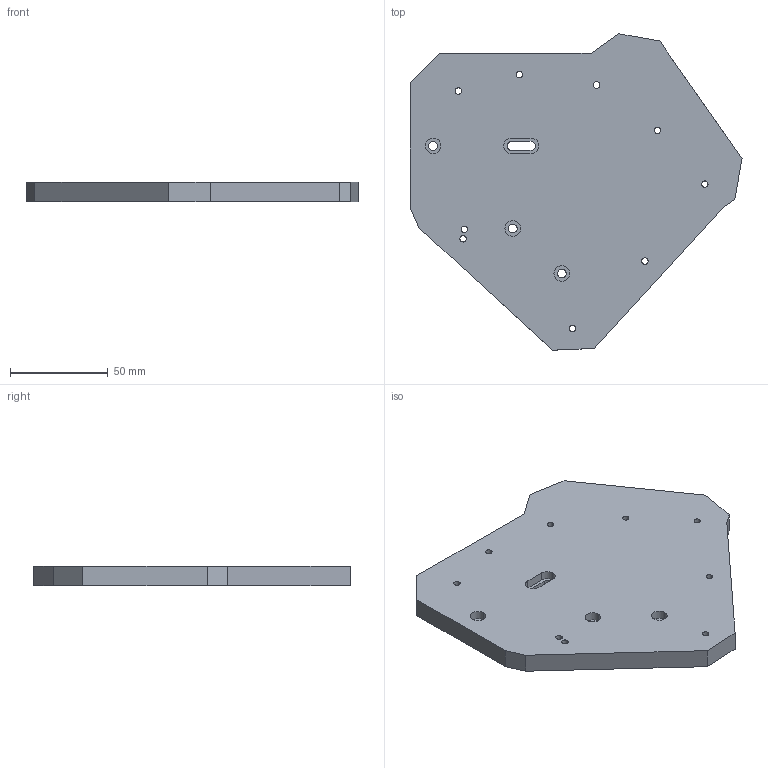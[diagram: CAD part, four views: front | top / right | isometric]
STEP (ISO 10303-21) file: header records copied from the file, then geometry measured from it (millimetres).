
FILE_DESCRIPTION (( 'STEP AP214' ), '1' );
FILE_NAME ('2023-06 - 350-700 NM BASEPLATE.STEP', '2024-01-29T09:17:52', ( '' ), ( '' ), 'SwSTEP 2.0', 'SolidWorks 2024', '' );
FILE_SCHEMA (( 'AUTOMOTIVE_DESIGN' ));
Length unit declared in the file: millimetre
Products named in the file (1): 2023-06 - 350-700 NM BASEPLATE
Bounding box: 169.58 x 161.64 x 10 mm (x, y, z)
Volume: 179236 mm3; surface area: 46266.2 mm2
Topology: 1 solids, 1 shells, 89 faces, 240 edges, 160 vertices
Faces by surface type: cylinder 52, plane 37
Entity records: 2915 total; most frequent: DIRECTION 526, CARTESIAN_POINT 490, ORIENTED_EDGE 480, EDGE_CURVE 240, AXIS2_PLACEMENT_3D 196, VERTEX_POINT 160, VECTOR 134, LINE 134
